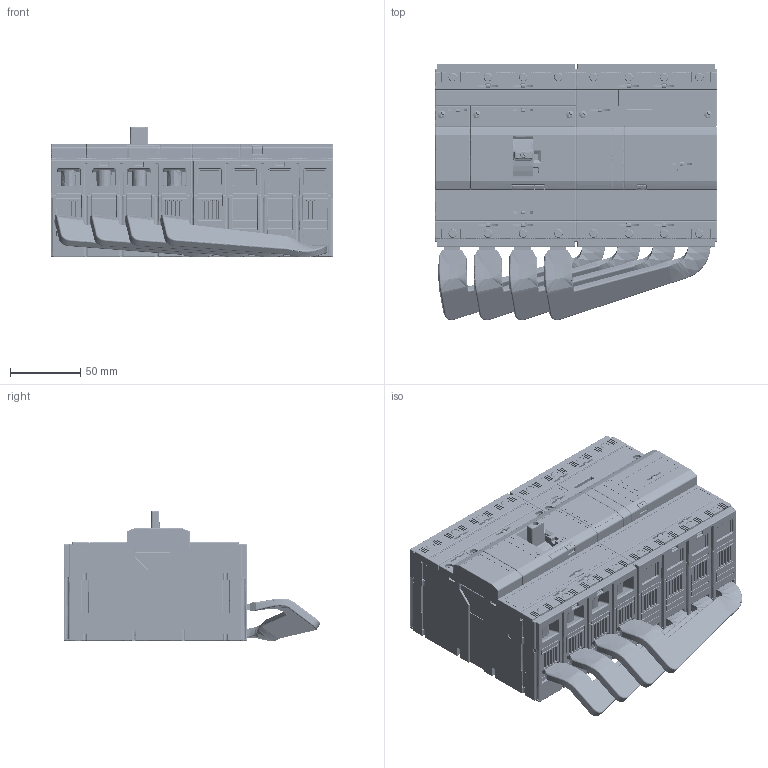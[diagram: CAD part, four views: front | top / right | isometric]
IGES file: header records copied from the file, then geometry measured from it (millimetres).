
Start section: SolidWorks IGES file using analytic representation for surfaces
Global section: file name: U:\14_RD\05_Technical_office\04_Office\Hrdinova\3D modely - IGES\Modeion\BC160NT405_406__RCD-BC0_Z.IGS; native system: SolidWorks 2011; preprocessor: SolidWorks 2011; author: adhrja3; date: 170615.144431; units: millimetre
Bounding box: 200 x 181.91 x 92.97 mm (x, y, z)
Surface area: 354698.3 mm2 (no closed solid volume)
Topology: 0 solids, 0 shells, 12027 faces, 97755 edges, 97632 vertices
Faces by surface type: bspline 7607, revolution 4420
